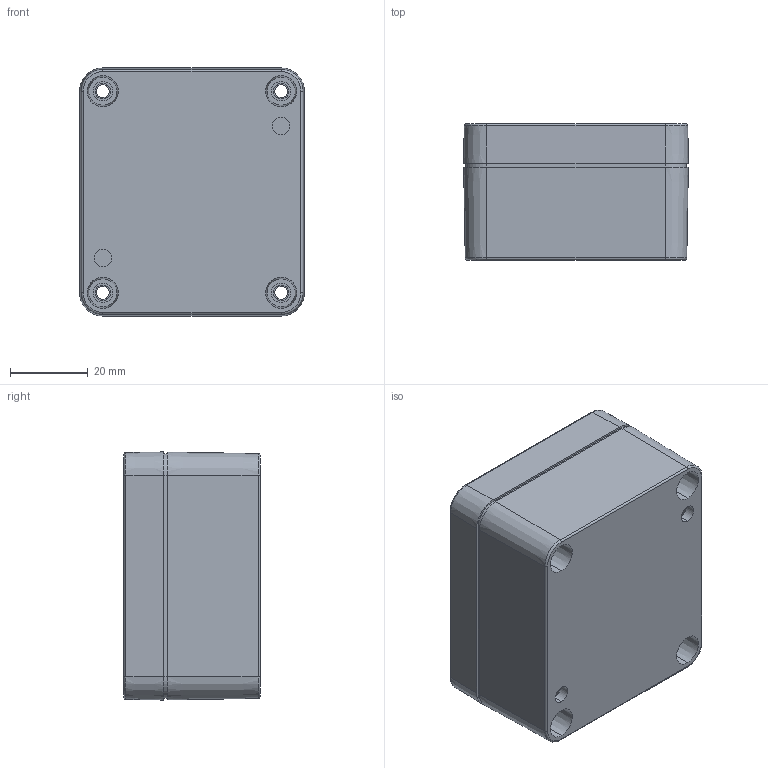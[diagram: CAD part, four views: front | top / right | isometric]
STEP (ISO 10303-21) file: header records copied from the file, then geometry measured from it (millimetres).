
FILE_DESCRIPTION (( 'STEP AP203' ), '1' );
FILE_NAME ('SE-204-0-0.STEP', '2019-12-21T12:51:16', ( '' ), ( '' ), 'SwSTEP 2.0', 'SolidWorks 2020', '' );
FILE_SCHEMA (( 'CONFIG_CONTROL_DESIGN' ));
Length unit declared in the file: millimetre
Products named in the file (4): SE-204-0-0; SE-204_pcb_sample; SE-204-P-2; SE-204-P-1
Assembly tree (3 placements, depth 2):
  SE-204-0-0
    SE-204-P-2
    SE-204-P-1
    SE-204_pcb_sample
Bounding box: 58 x 35.1 x 64 mm (x, y, z)
Volume: 47897.2 mm3; surface area: 42436.2 mm2
Topology: 7 solids, 7 shells, 905 faces, 2371 edges, 1526 vertices
Faces by surface type: plane 276, bspline 272, cylinder 244, cone 105, torus 8
Entity records: 32465 total; most frequent: CARTESIAN_POINT 11439, ORIENTED_EDGE 4742, DIRECTION 3737, EDGE_CURVE 2371, VERTEX_POINT 1526, AXIS2_PLACEMENT_3D 1416, EDGE_LOOP 983, VECTOR 905
